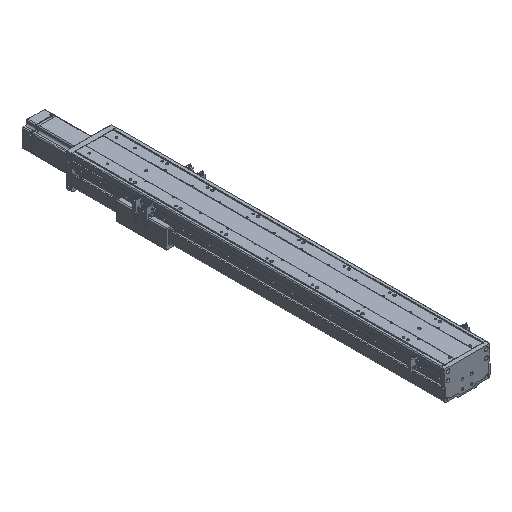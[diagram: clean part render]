
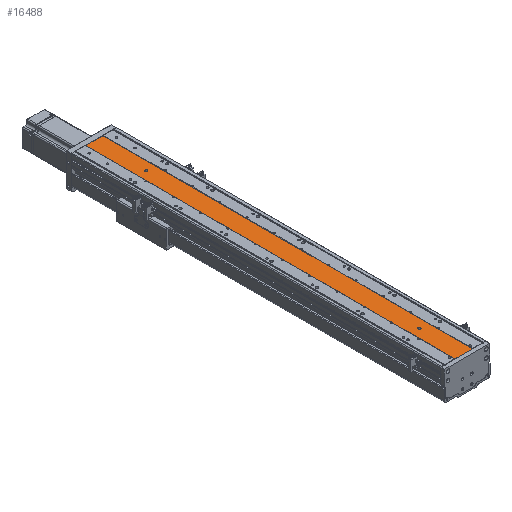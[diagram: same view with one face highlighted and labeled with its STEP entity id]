
A CAD part, isometric view. The second image highlights one B-rep face of the part: STEP entity #16488.
In plain terms, the highlighted planar face has unit normal (0, 0, 1).
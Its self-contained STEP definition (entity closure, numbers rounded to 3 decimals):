
#1447 = FACE_BOUND ( 'NONE', #28099, .T. ) ;
#1450 = FACE_OUTER_BOUND ( 'NONE', #28034, .T. ) ;
#1461 = FACE_BOUND ( 'NONE', #28050, .T. ) ;
#3003 = PLANE ( 'NONE',  #32249 ) ;
#3012 = DIRECTION ( 'NONE',  ( -1., 0., 0. ) ) ;
#3020 = DIRECTION ( 'NONE',  ( 0., 0., -1. ) ) ;
#3028 = CARTESIAN_POINT ( 'NONE',  ( -10645.079, 812., -17040.86 ) ) ;
#5527 = ORIENTED_EDGE ( 'NONE', *, *, #17923, .F. ) ;
#5542 = ORIENTED_EDGE ( 'NONE', *, *, #19146, .T. ) ;
#5550 = ORIENTED_EDGE ( 'NONE', *, *, #17950, .T. ) ;
#5557 = ORIENTED_EDGE ( 'NONE', *, *, #17922, .T. ) ;
#5560 = ORIENTED_EDGE ( 'NONE', *, *, #17895, .T. ) ;
#5563 = ORIENTED_EDGE ( 'NONE', *, *, #17845, .T. ) ;
#5607 = ORIENTED_EDGE ( 'NONE', *, *, #19227, .T. ) ;
#5612 = ORIENTED_EDGE ( 'NONE', *, *, #17891, .F. ) ;
#6721 = VECTOR ( 'NONE', #7278, 1000. ) ;
#6725 = LINE ( 'NONE', #7274, #6721 ) ;
#6764 = VECTOR ( 'NONE', #7635, 1000. ) ;
#6766 = CIRCLE ( 'NONE', #34454, 2.5 ) ;
#6768 = CIRCLE ( 'NONE', #34413, 2.5 ) ;
#6781 = LINE ( 'NONE', #7429, #6798 ) ;
#6783 = LINE ( 'NONE', #7624, #6764 ) ;
#6798 = VECTOR ( 'NONE', #7489, 1000. ) ;
#6818 = LINE ( 'NONE', #7883, #6864 ) ;
#6864 = VECTOR ( 'NONE', #7919, 1000. ) ;
#7274 = CARTESIAN_POINT ( 'NONE',  ( -10645.079, 812., -17040.86 ) ) ;
#7278 = DIRECTION ( 'NONE',  ( 0., -1., 0. ) ) ;
#7429 = CARTESIAN_POINT ( 'NONE',  ( -10645.079, 812., -17040.86 ) ) ;
#7489 = DIRECTION ( 'NONE',  ( 1., 0., 0. ) ) ;
#7506 = CARTESIAN_POINT ( 'NONE',  ( -10626.079, 697., -17040.86 ) ) ;
#7538 = DIRECTION ( 'NONE',  ( -1., 0., 0. ) ) ;
#7561 = DIRECTION ( 'NONE',  ( 0., 0., -1. ) ) ;
#7624 = CARTESIAN_POINT ( 'NONE',  ( -10607.079, 812., -17040.86 ) ) ;
#7625 = DIRECTION ( 'NONE',  ( -1., 0., 0. ) ) ;
#7635 = DIRECTION ( 'NONE',  ( 0., -1., 0. ) ) ;
#7670 = CARTESIAN_POINT ( 'NONE',  ( -10626.079, 97., -17040.86 ) ) ;
#7674 = DIRECTION ( 'NONE',  ( 0., 0., -1. ) ) ;
#7883 = CARTESIAN_POINT ( 'NONE',  ( -10645.079, 0., -17040.86 ) ) ;
#7919 = DIRECTION ( 'NONE',  ( 1., 0., 0. ) ) ;
#10387 = CIRCLE ( 'NONE', #34910, 2.5 ) ;
#10515 = CIRCLE ( 'NONE', #34970, 2.5 ) ;
#16488 = ADVANCED_FACE ( 'NONE', ( #1447, #1461, #1450 ), #3003, .F. ) ;
#17845 = EDGE_CURVE ( 'NONE', #44478, #44392, #6725, .T. ) ;
#17891 = EDGE_CURVE ( 'NONE', #44478, #44389, #6781, .T. ) ;
#17895 = EDGE_CURVE ( 'NONE', #46171, #46720, #6766, .T. ) ;
#17922 = EDGE_CURVE ( 'NONE', #46717, #46178, #6768, .T. ) ;
#17923 = EDGE_CURVE ( 'NONE', #44389, #44355, #6783, .T. ) ;
#17950 = EDGE_CURVE ( 'NONE', #44392, #44355, #6818, .T. ) ;
#19146 = EDGE_CURVE ( 'NONE', #46178, #46717, #10387, .T. ) ;
#19227 = EDGE_CURVE ( 'NONE', #46720, #46171, #10515, .T. ) ;
#22948 = CARTESIAN_POINT ( 'NONE',  ( -10607.079, 812., -17040.86 ) ) ;
#23004 = CARTESIAN_POINT ( 'NONE',  ( -10645.079, 0., -17040.86 ) ) ;
#23026 = CARTESIAN_POINT ( 'NONE',  ( -10607.079, 0., -17040.86 ) ) ;
#23255 = CARTESIAN_POINT ( 'NONE',  ( -10645.079, 812., -17040.86 ) ) ;
#23674 = CARTESIAN_POINT ( 'NONE',  ( -10623.579, 97., -17040.86 ) ) ;
#23681 = CARTESIAN_POINT ( 'NONE',  ( -10628.579, 697., -17040.86 ) ) ;
#23927 = CARTESIAN_POINT ( 'NONE',  ( -10628.579, 97., -17040.86 ) ) ;
#23937 = CARTESIAN_POINT ( 'NONE',  ( -10623.579, 697., -17040.86 ) ) ;
#28034 = EDGE_LOOP ( 'NONE', ( #5550, #5527, #5612, #5563 ) ) ;
#28050 = EDGE_LOOP ( 'NONE', ( #5542, #5557 ) ) ;
#28099 = EDGE_LOOP ( 'NONE', ( #5607, #5560 ) ) ;
#32249 = AXIS2_PLACEMENT_3D ( 'NONE', #3028, #3020, #3012 ) ;
#34413 = AXIS2_PLACEMENT_3D ( 'NONE', #7670, #7674, #7625 ) ;
#34454 = AXIS2_PLACEMENT_3D ( 'NONE', #7506, #7561, #7538 ) ;
#34910 = AXIS2_PLACEMENT_3D ( 'NONE', #38891, #38881, #38900 ) ;
#34970 = AXIS2_PLACEMENT_3D ( 'NONE', #39082, #39083, #39079 ) ;
#38881 = DIRECTION ( 'NONE',  ( 0., 0., -1. ) ) ;
#38891 = CARTESIAN_POINT ( 'NONE',  ( -10626.079, 97., -17040.86 ) ) ;
#38900 = DIRECTION ( 'NONE',  ( -1., 0., 0. ) ) ;
#39079 = DIRECTION ( 'NONE',  ( -1., 0., 0. ) ) ;
#39082 = CARTESIAN_POINT ( 'NONE',  ( -10626.079, 697., -17040.86 ) ) ;
#39083 = DIRECTION ( 'NONE',  ( 0., 0., -1. ) ) ;
#44355 = VERTEX_POINT ( 'NONE', #23026 ) ;
#44389 = VERTEX_POINT ( 'NONE', #22948 ) ;
#44392 = VERTEX_POINT ( 'NONE', #23004 ) ;
#44478 = VERTEX_POINT ( 'NONE', #23255 ) ;
#46171 = VERTEX_POINT ( 'NONE', #23681 ) ;
#46178 = VERTEX_POINT ( 'NONE', #23674 ) ;
#46717 = VERTEX_POINT ( 'NONE', #23927 ) ;
#46720 = VERTEX_POINT ( 'NONE', #23937 ) ;
